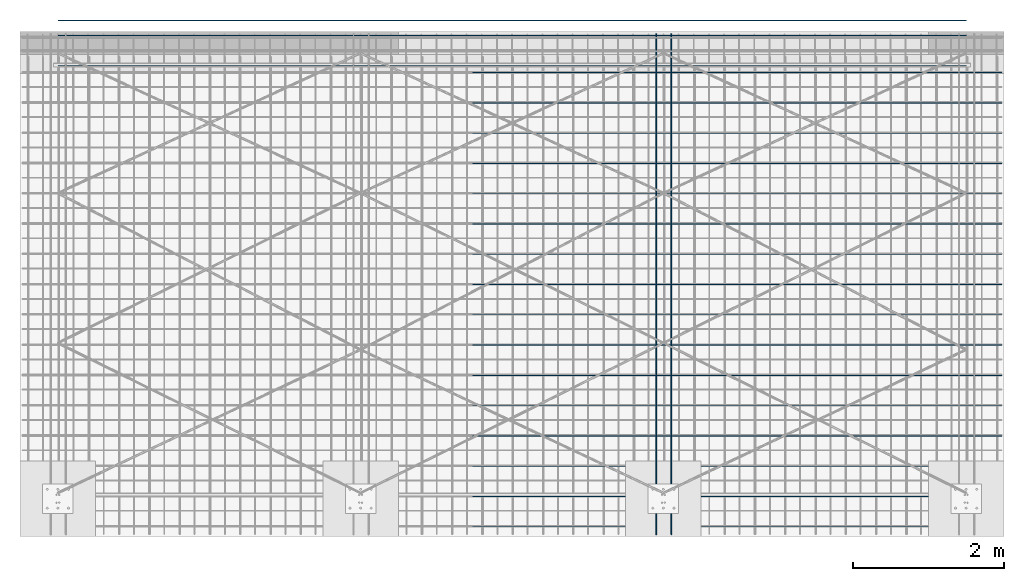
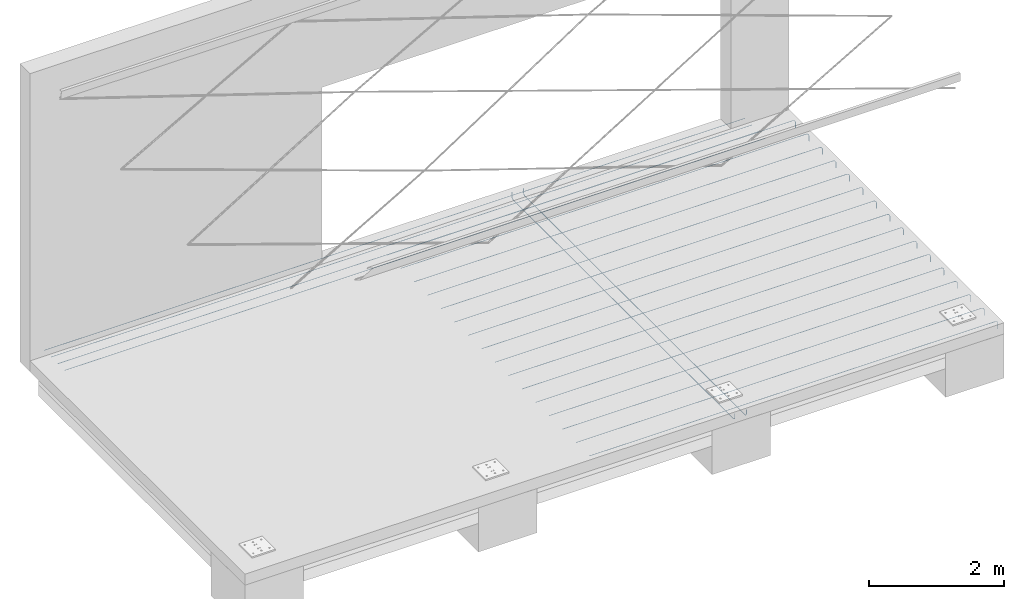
# One storey, part 6 of 8: 3 reinforcing bars.
"""IFC4X3_ADD2 building model written with IfcOpenShell, lengths in millimetres."""

from ifc_helpers import new_model, entity, si_unit, converted_unit, derived_unit, direction, frame, origin, place, context, subcontext, project, spatial, material, type_object, element, save


model = new_model("IFC4X3_ADD2")

# Units and contexts
model_context = context("Model", 3, precision=0.01, world=origin(), true_north=direction((6.123233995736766e-17, 1.0)))
plan_context = context("Plan", 3, precision=0.01, world=origin(), true_north=direction((6.123233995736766e-17, 1.0)))
body_context = subcontext(model_context, "Body", "Model", "MODEL_VIEW")
ifc_project = project(units=[si_unit("LENGTHUNIT", "METRE", prefix="MILLI"), converted_unit("PLANEANGLEUNIT", "DEGREE", entity("IfcPlaneAngleMeasure", 0.017453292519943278), si_unit("PLANEANGLEUNIT", "RADIAN"), dimensions=[0, 0, 0, 0, 0, 0, 0]), si_unit("AREAUNIT", "SQUARE_METRE"), si_unit("VOLUMEUNIT", "CUBIC_METRE"), derived_unit("THERMALTRANSMITTANCEUNIT", [(si_unit("MASSUNIT", "GRAM", prefix="KILO"), 1), (si_unit("THERMODYNAMICTEMPERATUREUNIT", "KELVIN"), -1), (si_unit("TIMEUNIT", "SECOND"), -3)]), derived_unit("USERDEFINED", [(si_unit("MASSUNIT", "GRAM", prefix="KILO"), 1), (si_unit("THERMODYNAMICTEMPERATUREUNIT", "KELVIN"), -1), (si_unit("TIMEUNIT", "SECOND"), -2)]), derived_unit("THERMALRESISTANCEUNIT", [(si_unit("MASSUNIT", "GRAM", prefix="KILO"), -1), (si_unit("TIMEUNIT", "SECOND"), 3), (si_unit("THERMODYNAMICTEMPERATUREUNIT", "KELVIN"), 1)]), si_unit("MASSUNIT", "GRAM", prefix="KILO"), derived_unit("MOMENTOFINERTIAUNIT", [(si_unit("LENGTHUNIT", "METRE"), 4)]), derived_unit("LINEARFORCEUNIT", [(si_unit("MASSUNIT", "GRAM", prefix="KILO"), 1), (si_unit("TIMEUNIT", "SECOND"), -2)]), derived_unit("WARPINGCONSTANTUNIT", [(si_unit("LENGTHUNIT", "METRE"), 6)]), si_unit("PRESSUREUNIT", "PASCAL"), derived_unit("MASSDENSITYUNIT", [(si_unit("MASSUNIT", "GRAM", prefix="KILO"), 1), (si_unit("LENGTHUNIT", "METRE"), -3)]), derived_unit("MODULUSOFELASTICITYUNIT", [(si_unit("MASSUNIT", "GRAM", prefix="KILO"), 1), (si_unit("TIMEUNIT", "SECOND"), -2), (si_unit("LENGTHUNIT", "METRE"), -1)]), derived_unit("THERMALEXPANSIONCOEFFICIENTUNIT", [(si_unit("THERMODYNAMICTEMPERATUREUNIT", "KELVIN"), -1)]), derived_unit("VAPORPERMEABILITYUNIT", [(si_unit("LENGTHUNIT", "METRE"), -1), (si_unit("TIMEUNIT", "SECOND"), 1)]), derived_unit("USERDEFINED", [(si_unit("MASSUNIT", "GRAM", prefix="KILO"), 1), (si_unit("TIMEUNIT", "SECOND"), -3), (si_unit("LENGTHUNIT", "METRE"), 3), (si_unit("ELECTRICCURRENTUNIT", "AMPERE"), -2)]), derived_unit("SPECIFICHEATCAPACITYUNIT", [(si_unit("THERMODYNAMICTEMPERATUREUNIT", "KELVIN"), -1), (si_unit("TIMEUNIT", "SECOND"), -2), (si_unit("LENGTHUNIT", "METRE"), 2)]), derived_unit("THERMALCONDUCTANCEUNIT", [(si_unit("MASSUNIT", "GRAM", prefix="KILO"), 1), (si_unit("THERMODYNAMICTEMPERATUREUNIT", "KELVIN"), -1), (si_unit("TIMEUNIT", "SECOND"), -3), (si_unit("LENGTHUNIT", "METRE"), 1)])], contexts=[model_context, plan_context])

# Site, building, storey
site_placement = place(None, origin())
site = spatial("IfcSite", under=ifc_project, at=site_placement, Name="Default", CompositionType="ELEMENT")
building_placement = place(site_placement, origin())
building = spatial("IfcBuilding", under=site, at=building_placement, Name="Complex structure", CompositionType="ELEMENT")
storey_placement = place(building_placement, frame((0.0, 0.0, -400.0)))
storey = spatial("IfcBuildingStorey", under=building, at=storey_placement, Name="Level -02", CompositionType="ELEMENT", Elevation=-400.0)

# Reinforcing bars
ifc_material = material(Name="Steel Rebar - B500A, B or C", Category="Unassigned")
reinforcing_bar_type_1 = type_object("IfcReinforcingBarType", Name="Rebar Bar:12mm", PredefinedType="NOTDEFINED")
reinforcing_bar_1_placement = place(storey_placement, origin())
ifc_direction_1 = entity("IfcDirection", [1.0, 0.0, 0.0])
ifc_direction_2 = entity("IfcDirection", [1.0, 0.0, 0.0])
element("IfcReinforcingBar", 1, at=reinforcing_bar_1_placement, inside=storey, type_object=reinforcing_bar_type_1, material=ifc_material, Name="Rebar Bar:12mm : Shape 21", ObjectType="Rebar Bar:12mm", context=body_context, shape_type="AdvancedSweptSolid", body=[
    entity("IfcSweptDiskSolid", entity("IfcCompositeCurve", [entity("IfcCompositeCurveSegment", "CONTINUOUS", True, entity("IfcPolyline", [entity("IfcCartesianPoint", [-5239.221550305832, -1751.8667039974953, 145.0]), entity("IfcCartesianPoint", [-5239.221550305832, -1751.8667039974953, 77.0])])), entity("IfcCompositeCurveSegment", "CONTINUOUS", True, entity("IfcTrimmedCurve", entity("IfcCircle", entity("IfcAxis2Placement3D", entity("IfcCartesianPoint", [-5239.221550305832, -1705.866703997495, 77.0]), ifc_direction_1, entity("IfcDirection", [0.0, 0.0, -1.0])), 46.0), [entity("IfcParameterValue", 269.9999999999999)], [entity("IfcParameterValue", 360.00000000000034)], True, "PARAMETER")), entity("IfcCompositeCurveSegment", "CONTINUOUS", True, entity("IfcPolyline", [entity("IfcCartesianPoint", [-5239.221550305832, -1705.866703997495, 31.0]), entity("IfcCartesianPoint", [-5239.221550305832, 4811.133296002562, 31.0])])), entity("IfcCompositeCurveSegment", "CONTINUOUS", True, entity("IfcTrimmedCurve", entity("IfcCircle", entity("IfcAxis2Placement3D", entity("IfcCartesianPoint", [-5239.221550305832, 4811.133296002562, 77.0]), ifc_direction_1, entity("IfcDirection", [0.0, 1.0, 0.0])), 46.0), [entity("IfcParameterValue", 269.9999999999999)], [entity("IfcParameterValue", 360.00000000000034)], True, "PARAMETER")), entity("IfcCompositeCurveSegment", "CONTINUOUS", True, entity("IfcPolyline", [entity("IfcCartesianPoint", [-5239.221550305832, 4857.133296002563, 77.0]), entity("IfcCartesianPoint", [-5239.221550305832, 4857.133296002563, 145.0])]))], False), 6.0, None, 0.0, 183.00000000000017),
    entity("IfcSweptDiskSolid", entity("IfcCompositeCurve", [entity("IfcCompositeCurveSegment", "CONTINUOUS", True, entity("IfcPolyline", [entity("IfcCartesianPoint", [-5039.221550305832, -1751.8667039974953, 145.0]), entity("IfcCartesianPoint", [-5039.221550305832, -1751.8667039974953, 77.0])])), entity("IfcCompositeCurveSegment", "CONTINUOUS", True, entity("IfcTrimmedCurve", entity("IfcCircle", entity("IfcAxis2Placement3D", entity("IfcCartesianPoint", [-5039.221550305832, -1705.866703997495, 77.0]), ifc_direction_2, entity("IfcDirection", [0.0, 0.0, -1.0])), 46.0), [entity("IfcParameterValue", 269.9999999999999)], [entity("IfcParameterValue", 360.00000000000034)], True, "PARAMETER")), entity("IfcCompositeCurveSegment", "CONTINUOUS", True, entity("IfcPolyline", [entity("IfcCartesianPoint", [-5039.221550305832, -1705.866703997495, 31.0]), entity("IfcCartesianPoint", [-5039.221550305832, 4811.133296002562, 31.0])])), entity("IfcCompositeCurveSegment", "CONTINUOUS", True, entity("IfcTrimmedCurve", entity("IfcCircle", entity("IfcAxis2Placement3D", entity("IfcCartesianPoint", [-5039.221550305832, 4811.133296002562, 77.0]), ifc_direction_2, entity("IfcDirection", [0.0, 1.0, 0.0])), 46.0), [entity("IfcParameterValue", 269.9999999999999)], [entity("IfcParameterValue", 360.00000000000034)], True, "PARAMETER")), entity("IfcCompositeCurveSegment", "CONTINUOUS", True, entity("IfcPolyline", [entity("IfcCartesianPoint", [-5039.221550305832, 4857.133296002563, 77.0]), entity("IfcCartesianPoint", [-5039.221550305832, 4857.133296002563, 145.0])]))], False), 6.0, None, 0.0, 183.00000000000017),
])
reinforcing_bar_type_2 = type_object("IfcReinforcingBarType", Name="Rebar Bar:10mm", PredefinedType="NOTDEFINED")
reinforcing_bar_2_placement = place(storey_placement, origin())
element("IfcReinforcingBar", 2, at=reinforcing_bar_2_placement, inside=storey, type_object=reinforcing_bar_type_2, material=ifc_material, Name="Rebar Bar:10mm : Shape 12", ObjectType="Rebar Bar:10mm", context=body_context, shape_type="AdvancedSweptSolid", body=[
    entity("IfcSweptDiskSolid", entity("IfcCompositeCurve", [entity("IfcCompositeCurveSegment", "CONTINUOUS", True, entity("IfcPolyline", [entity("IfcCartesianPoint", [-7670.221550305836, -1652.8667039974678, 170.0]), entity("IfcCartesianPoint", [-730.221550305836, -1652.8667039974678, 170.0])])), entity("IfcCompositeCurveSegment", "CONTINUOUS", True, entity("IfcTrimmedCurve", entity("IfcCircle", entity("IfcAxis2Placement3D", entity("IfcCartesianPoint", [-730.221550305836, -1652.8667039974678, 115.0]), entity("IfcDirection", [0.0, 1.0, 0.0]), entity("IfcDirection", [1.0, 0.0, 0.0])), 55.0), [entity("IfcParameterValue", 269.9999999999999)], [entity("IfcParameterValue", 360.00000000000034)], True, "PARAMETER")), entity("IfcCompositeCurveSegment", "CONTINUOUS", True, entity("IfcPolyline", [entity("IfcCartesianPoint", [-675.2215503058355, -1652.8667039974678, 115.0]), entity("IfcCartesianPoint", [-675.2215503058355, -1652.8667039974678, 25.0])]))], False), 5.0, None, 0.0, 92.00000000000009),
    entity("IfcSweptDiskSolid", entity("IfcCompositeCurve", [entity("IfcCompositeCurveSegment", "CONTINUOUS", True, entity("IfcPolyline", [entity("IfcCartesianPoint", [-7670.221550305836, -1252.8667039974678, 170.0]), entity("IfcCartesianPoint", [-730.221550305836, -1252.8667039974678, 170.0])])), entity("IfcCompositeCurveSegment", "CONTINUOUS", True, entity("IfcTrimmedCurve", entity("IfcCircle", entity("IfcAxis2Placement3D", entity("IfcCartesianPoint", [-730.221550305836, -1252.8667039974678, 115.0]), entity("IfcDirection", [0.0, 1.0, 0.0]), entity("IfcDirection", [1.0, 0.0, 0.0])), 55.0), [entity("IfcParameterValue", 269.9999999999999)], [entity("IfcParameterValue", 360.00000000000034)], True, "PARAMETER")), entity("IfcCompositeCurveSegment", "CONTINUOUS", True, entity("IfcPolyline", [entity("IfcCartesianPoint", [-675.2215503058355, -1252.8667039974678, 115.0]), entity("IfcCartesianPoint", [-675.2215503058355, -1252.8667039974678, 25.0])]))], False), 5.0, None, 0.0, 92.00000000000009),
    entity("IfcSweptDiskSolid", entity("IfcCompositeCurve", [entity("IfcCompositeCurveSegment", "CONTINUOUS", True, entity("IfcPolyline", [entity("IfcCartesianPoint", [-7670.221550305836, -852.8667039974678, 170.0]), entity("IfcCartesianPoint", [-730.221550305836, -852.8667039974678, 170.0])])), entity("IfcCompositeCurveSegment", "CONTINUOUS", True, entity("IfcTrimmedCurve", entity("IfcCircle", entity("IfcAxis2Placement3D", entity("IfcCartesianPoint", [-730.221550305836, -852.8667039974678, 115.0]), entity("IfcDirection", [0.0, 1.0, 0.0]), entity("IfcDirection", [1.0, 0.0, 0.0])), 55.0), [entity("IfcParameterValue", 269.9999999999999)], [entity("IfcParameterValue", 360.00000000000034)], True, "PARAMETER")), entity("IfcCompositeCurveSegment", "CONTINUOUS", True, entity("IfcPolyline", [entity("IfcCartesianPoint", [-675.2215503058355, -852.8667039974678, 115.0]), entity("IfcCartesianPoint", [-675.2215503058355, -852.8667039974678, 25.0])]))], False), 5.0, None, 0.0, 92.00000000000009),
    entity("IfcSweptDiskSolid", entity("IfcCompositeCurve", [entity("IfcCompositeCurveSegment", "CONTINUOUS", True, entity("IfcPolyline", [entity("IfcCartesianPoint", [-7670.221550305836, -452.8667039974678, 170.0]), entity("IfcCartesianPoint", [-730.221550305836, -452.8667039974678, 170.0])])), entity("IfcCompositeCurveSegment", "CONTINUOUS", True, entity("IfcTrimmedCurve", entity("IfcCircle", entity("IfcAxis2Placement3D", entity("IfcCartesianPoint", [-730.221550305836, -452.8667039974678, 115.0]), entity("IfcDirection", [0.0, 1.0, 0.0]), entity("IfcDirection", [1.0, 0.0, 0.0])), 55.0), [entity("IfcParameterValue", 269.9999999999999)], [entity("IfcParameterValue", 360.00000000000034)], True, "PARAMETER")), entity("IfcCompositeCurveSegment", "CONTINUOUS", True, entity("IfcPolyline", [entity("IfcCartesianPoint", [-675.2215503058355, -452.8667039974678, 115.0]), entity("IfcCartesianPoint", [-675.2215503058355, -452.8667039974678, 25.0])]))], False), 5.0, None, 0.0, 92.00000000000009),
    entity("IfcSweptDiskSolid", entity("IfcCompositeCurve", [entity("IfcCompositeCurveSegment", "CONTINUOUS", True, entity("IfcPolyline", [entity("IfcCartesianPoint", [-7670.221550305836, -52.86670399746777, 170.0]), entity("IfcCartesianPoint", [-730.221550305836, -52.86670399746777, 170.0])])), entity("IfcCompositeCurveSegment", "CONTINUOUS", True, entity("IfcTrimmedCurve", entity("IfcCircle", entity("IfcAxis2Placement3D", entity("IfcCartesianPoint", [-730.221550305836, -52.86670399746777, 115.0]), entity("IfcDirection", [0.0, 1.0, 0.0]), entity("IfcDirection", [1.0, 0.0, 0.0])), 55.0), [entity("IfcParameterValue", 269.9999999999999)], [entity("IfcParameterValue", 360.00000000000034)], True, "PARAMETER")), entity("IfcCompositeCurveSegment", "CONTINUOUS", True, entity("IfcPolyline", [entity("IfcCartesianPoint", [-675.2215503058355, -52.86670399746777, 115.0]), entity("IfcCartesianPoint", [-675.2215503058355, -52.86670399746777, 25.0])]))], False), 5.0, None, 0.0, 92.00000000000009),
    entity("IfcSweptDiskSolid", entity("IfcCompositeCurve", [entity("IfcCompositeCurveSegment", "CONTINUOUS", True, entity("IfcPolyline", [entity("IfcCartesianPoint", [-7670.221550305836, 347.13329600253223, 170.0]), entity("IfcCartesianPoint", [-730.221550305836, 347.13329600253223, 170.0])])), entity("IfcCompositeCurveSegment", "CONTINUOUS", True, entity("IfcTrimmedCurve", entity("IfcCircle", entity("IfcAxis2Placement3D", entity("IfcCartesianPoint", [-730.221550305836, 347.13329600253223, 115.0]), entity("IfcDirection", [0.0, 1.0, 0.0]), entity("IfcDirection", [1.0, 0.0, 0.0])), 55.0), [entity("IfcParameterValue", 269.9999999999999)], [entity("IfcParameterValue", 360.00000000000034)], True, "PARAMETER")), entity("IfcCompositeCurveSegment", "CONTINUOUS", True, entity("IfcPolyline", [entity("IfcCartesianPoint", [-675.2215503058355, 347.13329600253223, 115.0]), entity("IfcCartesianPoint", [-675.2215503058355, 347.13329600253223, 25.0])]))], False), 5.0, None, 0.0, 92.00000000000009),
    entity("IfcSweptDiskSolid", entity("IfcCompositeCurve", [entity("IfcCompositeCurveSegment", "CONTINUOUS", True, entity("IfcPolyline", [entity("IfcCartesianPoint", [-7670.221550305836, 747.1332960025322, 170.0]), entity("IfcCartesianPoint", [-730.221550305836, 747.1332960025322, 170.0])])), entity("IfcCompositeCurveSegment", "CONTINUOUS", True, entity("IfcTrimmedCurve", entity("IfcCircle", entity("IfcAxis2Placement3D", entity("IfcCartesianPoint", [-730.221550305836, 747.1332960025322, 115.0]), entity("IfcDirection", [0.0, 1.0, 0.0]), entity("IfcDirection", [1.0, 0.0, 0.0])), 55.0), [entity("IfcParameterValue", 269.9999999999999)], [entity("IfcParameterValue", 360.00000000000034)], True, "PARAMETER")), entity("IfcCompositeCurveSegment", "CONTINUOUS", True, entity("IfcPolyline", [entity("IfcCartesianPoint", [-675.2215503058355, 747.1332960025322, 115.0]), entity("IfcCartesianPoint", [-675.2215503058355, 747.1332960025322, 25.0])]))], False), 5.0, None, 0.0, 92.00000000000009),
    entity("IfcSweptDiskSolid", entity("IfcCompositeCurve", [entity("IfcCompositeCurveSegment", "CONTINUOUS", True, entity("IfcPolyline", [entity("IfcCartesianPoint", [-7670.221550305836, 1147.1332960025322, 170.0]), entity("IfcCartesianPoint", [-730.221550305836, 1147.1332960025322, 170.0])])), entity("IfcCompositeCurveSegment", "CONTINUOUS", True, entity("IfcTrimmedCurve", entity("IfcCircle", entity("IfcAxis2Placement3D", entity("IfcCartesianPoint", [-730.221550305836, 1147.1332960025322, 115.0]), entity("IfcDirection", [0.0, 1.0, 0.0]), entity("IfcDirection", [1.0, 0.0, 0.0])), 55.0), [entity("IfcParameterValue", 269.9999999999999)], [entity("IfcParameterValue", 360.00000000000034)], True, "PARAMETER")), entity("IfcCompositeCurveSegment", "CONTINUOUS", True, entity("IfcPolyline", [entity("IfcCartesianPoint", [-675.2215503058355, 1147.1332960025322, 115.0]), entity("IfcCartesianPoint", [-675.2215503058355, 1147.1332960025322, 25.0])]))], False), 5.0, None, 0.0, 92.00000000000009),
    entity("IfcSweptDiskSolid", entity("IfcCompositeCurve", [entity("IfcCompositeCurveSegment", "CONTINUOUS", True, entity("IfcPolyline", [entity("IfcCartesianPoint", [-7670.221550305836, 1547.1332960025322, 170.0]), entity("IfcCartesianPoint", [-730.221550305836, 1547.1332960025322, 170.0])])), entity("IfcCompositeCurveSegment", "CONTINUOUS", True, entity("IfcTrimmedCurve", entity("IfcCircle", entity("IfcAxis2Placement3D", entity("IfcCartesianPoint", [-730.221550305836, 1547.1332960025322, 115.0]), entity("IfcDirection", [0.0, 1.0, 0.0]), entity("IfcDirection", [1.0, 0.0, 0.0])), 55.0), [entity("IfcParameterValue", 269.9999999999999)], [entity("IfcParameterValue", 360.00000000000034)], True, "PARAMETER")), entity("IfcCompositeCurveSegment", "CONTINUOUS", True, entity("IfcPolyline", [entity("IfcCartesianPoint", [-675.2215503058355, 1547.1332960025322, 115.0]), entity("IfcCartesianPoint", [-675.2215503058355, 1547.1332960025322, 25.0])]))], False), 5.0, None, 0.0, 92.00000000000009),
    entity("IfcSweptDiskSolid", entity("IfcCompositeCurve", [entity("IfcCompositeCurveSegment", "CONTINUOUS", True, entity("IfcPolyline", [entity("IfcCartesianPoint", [-7670.221550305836, 1947.1332960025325, 170.0]), entity("IfcCartesianPoint", [-730.221550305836, 1947.1332960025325, 170.0])])), entity("IfcCompositeCurveSegment", "CONTINUOUS", True, entity("IfcTrimmedCurve", entity("IfcCircle", entity("IfcAxis2Placement3D", entity("IfcCartesianPoint", [-730.221550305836, 1947.1332960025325, 115.0]), entity("IfcDirection", [0.0, 1.0, 0.0]), entity("IfcDirection", [1.0, 0.0, 0.0])), 55.0), [entity("IfcParameterValue", 269.9999999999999)], [entity("IfcParameterValue", 360.00000000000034)], True, "PARAMETER")), entity("IfcCompositeCurveSegment", "CONTINUOUS", True, entity("IfcPolyline", [entity("IfcCartesianPoint", [-675.2215503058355, 1947.1332960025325, 115.0]), entity("IfcCartesianPoint", [-675.2215503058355, 1947.1332960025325, 25.0])]))], False), 5.0, None, 0.0, 92.00000000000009),
    entity("IfcSweptDiskSolid", entity("IfcCompositeCurve", [entity("IfcCompositeCurveSegment", "CONTINUOUS", True, entity("IfcPolyline", [entity("IfcCartesianPoint", [-7670.221550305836, 2347.1332960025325, 170.0]), entity("IfcCartesianPoint", [-730.221550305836, 2347.1332960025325, 170.0])])), entity("IfcCompositeCurveSegment", "CONTINUOUS", True, entity("IfcTrimmedCurve", entity("IfcCircle", entity("IfcAxis2Placement3D", entity("IfcCartesianPoint", [-730.221550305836, 2347.1332960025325, 115.0]), entity("IfcDirection", [0.0, 1.0, 0.0]), entity("IfcDirection", [1.0, 0.0, 0.0])), 55.0), [entity("IfcParameterValue", 269.9999999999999)], [entity("IfcParameterValue", 360.00000000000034)], True, "PARAMETER")), entity("IfcCompositeCurveSegment", "CONTINUOUS", True, entity("IfcPolyline", [entity("IfcCartesianPoint", [-675.2215503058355, 2347.1332960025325, 115.0]), entity("IfcCartesianPoint", [-675.2215503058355, 2347.1332960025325, 25.0])]))], False), 5.0, None, 0.0, 92.00000000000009),
    entity("IfcSweptDiskSolid", entity("IfcCompositeCurve", [entity("IfcCompositeCurveSegment", "CONTINUOUS", True, entity("IfcPolyline", [entity("IfcCartesianPoint", [-7670.221550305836, 2747.133296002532, 170.0]), entity("IfcCartesianPoint", [-730.221550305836, 2747.133296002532, 170.0])])), entity("IfcCompositeCurveSegment", "CONTINUOUS", True, entity("IfcTrimmedCurve", entity("IfcCircle", entity("IfcAxis2Placement3D", entity("IfcCartesianPoint", [-730.221550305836, 2747.133296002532, 115.0]), entity("IfcDirection", [0.0, 1.0, 0.0]), entity("IfcDirection", [1.0, 0.0, 0.0])), 55.0), [entity("IfcParameterValue", 269.9999999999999)], [entity("IfcParameterValue", 360.00000000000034)], True, "PARAMETER")), entity("IfcCompositeCurveSegment", "CONTINUOUS", True, entity("IfcPolyline", [entity("IfcCartesianPoint", [-675.2215503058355, 2747.133296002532, 115.0]), entity("IfcCartesianPoint", [-675.2215503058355, 2747.133296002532, 25.0])]))], False), 5.0, None, 0.0, 92.00000000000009),
    entity("IfcSweptDiskSolid", entity("IfcCompositeCurve", [entity("IfcCompositeCurveSegment", "CONTINUOUS", True, entity("IfcPolyline", [entity("IfcCartesianPoint", [-7670.221550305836, 3147.133296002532, 170.0]), entity("IfcCartesianPoint", [-730.221550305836, 3147.133296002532, 170.0])])), entity("IfcCompositeCurveSegment", "CONTINUOUS", True, entity("IfcTrimmedCurve", entity("IfcCircle", entity("IfcAxis2Placement3D", entity("IfcCartesianPoint", [-730.221550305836, 3147.133296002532, 115.0]), entity("IfcDirection", [0.0, 1.0, 0.0]), entity("IfcDirection", [1.0, 0.0, 0.0])), 55.0), [entity("IfcParameterValue", 269.9999999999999)], [entity("IfcParameterValue", 360.00000000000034)], True, "PARAMETER")), entity("IfcCompositeCurveSegment", "CONTINUOUS", True, entity("IfcPolyline", [entity("IfcCartesianPoint", [-675.2215503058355, 3147.133296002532, 115.0]), entity("IfcCartesianPoint", [-675.2215503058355, 3147.133296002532, 25.0])]))], False), 5.0, None, 0.0, 92.00000000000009),
    entity("IfcSweptDiskSolid", entity("IfcCompositeCurve", [entity("IfcCompositeCurveSegment", "CONTINUOUS", True, entity("IfcPolyline", [entity("IfcCartesianPoint", [-7670.221550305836, 3547.133296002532, 170.0]), entity("IfcCartesianPoint", [-730.221550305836, 3547.133296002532, 170.0])])), entity("IfcCompositeCurveSegment", "CONTINUOUS", True, entity("IfcTrimmedCurve", entity("IfcCircle", entity("IfcAxis2Placement3D", entity("IfcCartesianPoint", [-730.221550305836, 3547.133296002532, 115.0]), entity("IfcDirection", [0.0, 1.0, 0.0]), entity("IfcDirection", [1.0, 0.0, 0.0])), 55.0), [entity("IfcParameterValue", 269.9999999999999)], [entity("IfcParameterValue", 360.00000000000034)], True, "PARAMETER")), entity("IfcCompositeCurveSegment", "CONTINUOUS", True, entity("IfcPolyline", [entity("IfcCartesianPoint", [-675.2215503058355, 3547.133296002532, 115.0]), entity("IfcCartesianPoint", [-675.2215503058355, 3547.133296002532, 25.0])]))], False), 5.0, None, 0.0, 92.00000000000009),
    entity("IfcSweptDiskSolid", entity("IfcCompositeCurve", [entity("IfcCompositeCurveSegment", "CONTINUOUS", True, entity("IfcPolyline", [entity("IfcCartesianPoint", [-7670.221550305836, 3947.133296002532, 170.0]), entity("IfcCartesianPoint", [-730.221550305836, 3947.133296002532, 170.0])])), entity("IfcCompositeCurveSegment", "CONTINUOUS", True, entity("IfcTrimmedCurve", entity("IfcCircle", entity("IfcAxis2Placement3D", entity("IfcCartesianPoint", [-730.221550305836, 3947.133296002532, 115.0]), entity("IfcDirection", [0.0, 1.0, 0.0]), entity("IfcDirection", [1.0, 0.0, 0.0])), 55.0), [entity("IfcParameterValue", 269.9999999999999)], [entity("IfcParameterValue", 360.00000000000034)], True, "PARAMETER")), entity("IfcCompositeCurveSegment", "CONTINUOUS", True, entity("IfcPolyline", [entity("IfcCartesianPoint", [-675.2215503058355, 3947.133296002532, 115.0]), entity("IfcCartesianPoint", [-675.2215503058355, 3947.133296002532, 25.0])]))], False), 5.0, None, 0.0, 92.00000000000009),
    entity("IfcSweptDiskSolid", entity("IfcCompositeCurve", [entity("IfcCompositeCurveSegment", "CONTINUOUS", True, entity("IfcPolyline", [entity("IfcCartesianPoint", [-7670.221550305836, 4347.133296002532, 170.0]), entity("IfcCartesianPoint", [-730.221550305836, 4347.133296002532, 170.0])])), entity("IfcCompositeCurveSegment", "CONTINUOUS", True, entity("IfcTrimmedCurve", entity("IfcCircle", entity("IfcAxis2Placement3D", entity("IfcCartesianPoint", [-730.221550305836, 4347.133296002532, 115.0]), entity("IfcDirection", [0.0, 1.0, 0.0]), entity("IfcDirection", [1.0, 0.0, 0.0])), 55.0), [entity("IfcParameterValue", 269.9999999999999)], [entity("IfcParameterValue", 360.00000000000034)], True, "PARAMETER")), entity("IfcCompositeCurveSegment", "CONTINUOUS", True, entity("IfcPolyline", [entity("IfcCartesianPoint", [-675.2215503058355, 4347.133296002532, 115.0]), entity("IfcCartesianPoint", [-675.2215503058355, 4347.133296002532, 25.0])]))], False), 5.0, None, 0.0, 92.00000000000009),
])
reinforcing_bar_3_placement = place(storey_placement, origin())
element("IfcReinforcingBar", 3, at=reinforcing_bar_3_placement, inside=storey, type_object=reinforcing_bar_type_2, material=ifc_material, Name="Rebar Bar:10mm : Shape 00", ObjectType="Rebar Bar:10mm", context=body_context, shape_type="AdvancedSweptSolid", body=[
    entity("IfcSweptDiskSolid", entity("IfcCompositeCurve", [entity("IfcCompositeCurveSegment", "CONTINUOUS", True, entity("IfcPolyline", [entity("IfcCartesianPoint", [-13141.260887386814, 4437.133296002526, -58.349999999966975]), entity("IfcCartesianPoint", [-1141.2608873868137, 4437.133296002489, -58.34999999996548])]))], False), 5.0, None, 0.0, 1.0),
    entity("IfcSweptDiskSolid", entity("IfcCompositeCurve", [entity("IfcCompositeCurveSegment", "CONTINUOUS", True, entity("IfcPolyline", [entity("IfcCartesianPoint", [-13141.260887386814, 4637.133296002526, -58.34999999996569]), entity("IfcCartesianPoint", [-1141.2608873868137, 4637.133296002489, -58.3499999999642])]))], False), 5.0, None, 0.0, 1.0),
    entity("IfcSweptDiskSolid", entity("IfcCompositeCurve", [entity("IfcCompositeCurveSegment", "CONTINUOUS", True, entity("IfcPolyline", [entity("IfcCartesianPoint", [-13141.260887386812, 4837.133296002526, -58.3499999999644]), entity("IfcCartesianPoint", [-1141.2608873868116, 4837.133296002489, -58.34999999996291])]))], False), 5.0, None, 0.0, 1.0),
    entity("IfcSweptDiskSolid", entity("IfcCompositeCurve", [entity("IfcCompositeCurveSegment", "CONTINUOUS", True, entity("IfcPolyline", [entity("IfcCartesianPoint", [-13141.260887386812, 5037.133296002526, -58.34999999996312]), entity("IfcCartesianPoint", [-1141.2608873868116, 5037.13329600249, -58.349999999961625])]))], False), 5.0, None, 0.0, 1.0),
])

save(model, "model.ifc")
